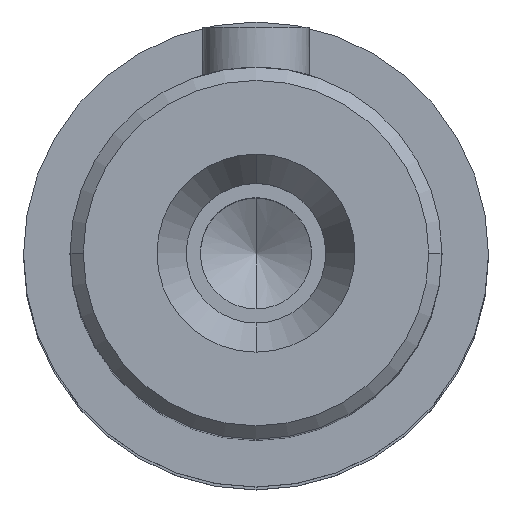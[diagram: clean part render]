
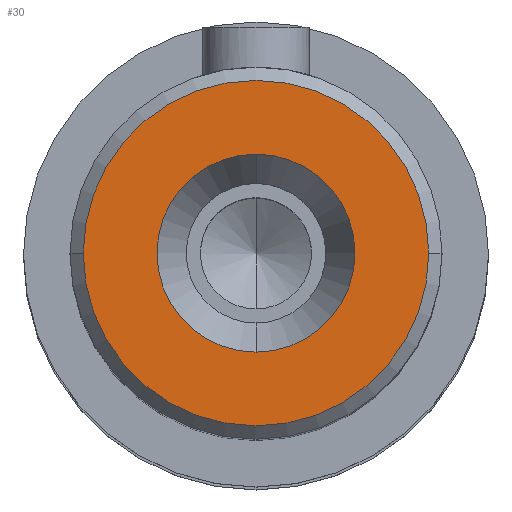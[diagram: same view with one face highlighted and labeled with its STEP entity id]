
A CAD part, top view. The second image highlights one B-rep face of the part: STEP entity #30.
In plain terms, the highlighted planar face has unit normal (0, 0, 1) as drawn and (1, 0, 0) by its records, which use the part's own axes.
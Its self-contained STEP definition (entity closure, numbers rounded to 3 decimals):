
#30=ADVANCED_FACE('',(#88,#73),#707,.T.);
#73=FACE_BOUND('',#144,.T.);
#88=FACE_OUTER_BOUND('',#143,.T.);
#143=EDGE_LOOP('',(#239,#240));
#144=EDGE_LOOP('',(#241,#242));
#239=ORIENTED_EDGE('',*,*,#404,.F.);
#240=ORIENTED_EDGE('',*,*,#407,.F.);
#241=ORIENTED_EDGE('',*,*,#469,.F.);
#242=ORIENTED_EDGE('',*,*,#432,.F.);
#404=EDGE_CURVE('',#647,#650,#539,.T.);
#407=EDGE_CURVE('',#650,#647,#541,.T.);
#432=EDGE_CURVE('',#649,#684,#551,.T.);
#469=EDGE_CURVE('',#684,#649,#572,.T.);
#539=TRIMMED_CURVE($,#588,(#1444),(#1445),.T.,.CARTESIAN.);
#541=TRIMMED_CURVE($,#590,(#1452),(#1453),.T.,.CARTESIAN.);
#551=TRIMMED_CURVE($,#600,(#1512),(#1513),.T.,.CARTESIAN.);
#572=TRIMMED_CURVE($,#621,(#1607),(#1608),.T.,.CARTESIAN.);
#588=CIRCLE('',#961,13.);
#590=CIRCLE('',#963,13.);
#600=CIRCLE('',#973,7.45);
#621=CIRCLE('',#994,7.45);
#647=VERTEX_POINT('',#1322);
#649=VERTEX_POINT('',#1324);
#650=VERTEX_POINT('',#1325);
#684=VERTEX_POINT('',#1359);
#707=PLANE('',#925);
#925=AXIS2_PLACEMENT_3D('',#1176,#1016,$);
#961=AXIS2_PLACEMENT_3D($,#1443,#1062,#1063);
#963=AXIS2_PLACEMENT_3D($,#1451,#1066,#1067);
#973=AXIS2_PLACEMENT_3D($,#1511,#1086,#1087);
#994=AXIS2_PLACEMENT_3D($,#1606,#1128,#1129);
#1016=DIRECTION('',(1.,0.,0.));
#1062=DIRECTION('',(-1.,0.,0.));
#1063=DIRECTION('',(0.,0.,1.));
#1066=DIRECTION('',(-1.,0.,0.));
#1067=DIRECTION('',(0.,0.,-1.));
#1086=DIRECTION('',(1.,0.,0.));
#1087=DIRECTION('',(0.,1.,0.));
#1128=DIRECTION('',(1.,0.,0.));
#1129=DIRECTION('',(0.,-1.,0.));
#1176=CARTESIAN_POINT('',(123.5,-15.66,-15.66));
#1322=CARTESIAN_POINT('',(123.5,0.,13.));
#1324=CARTESIAN_POINT('',(123.5,7.45,0.));
#1325=CARTESIAN_POINT('',(123.5,0.,-13.));
#1359=CARTESIAN_POINT('',(123.5,-7.45,0.));
#1443=CARTESIAN_POINT('',(123.5,0.,0.));
#1444=CARTESIAN_POINT('',(123.5,0.,13.));
#1445=CARTESIAN_POINT('',(123.5,0.,-13.));
#1451=CARTESIAN_POINT('',(123.5,0.,0.));
#1452=CARTESIAN_POINT('',(123.5,0.,-13.));
#1453=CARTESIAN_POINT('',(123.5,0.,13.));
#1511=CARTESIAN_POINT('',(123.5,0.,0.));
#1512=CARTESIAN_POINT('',(123.5,7.45,0.));
#1513=CARTESIAN_POINT('',(123.5,-7.45,0.));
#1606=CARTESIAN_POINT('',(123.5,0.,0.));
#1607=CARTESIAN_POINT('',(123.5,-7.45,0.));
#1608=CARTESIAN_POINT('',(123.5,7.45,0.));
